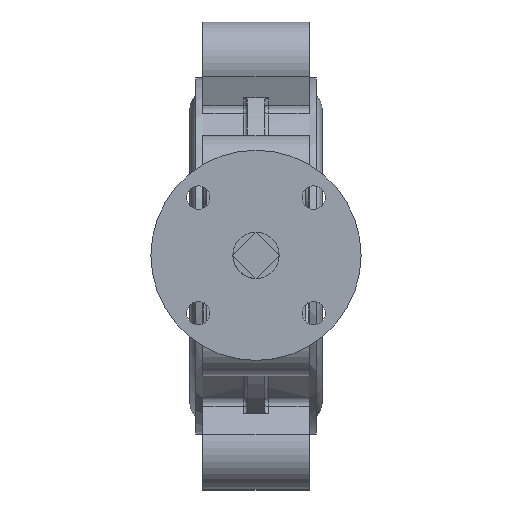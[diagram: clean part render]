
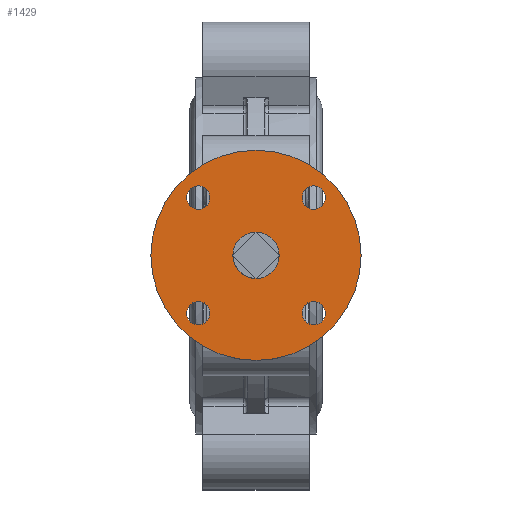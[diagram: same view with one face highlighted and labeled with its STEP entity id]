
A CAD part, top view. The second image highlights one B-rep face of the part: STEP entity #1429.
In plain terms, the highlighted planar face has unit normal (0, 0, 1).
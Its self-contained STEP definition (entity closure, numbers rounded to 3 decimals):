
#1429=ADVANCED_FACE('',(#4691,#4693,#4695,#4697,#4699,#4701),#4703,.T.);
#4691=FACE_BOUND('',#4692,.T.);
#4692=EDGE_LOOP('',(#8622));
#4693=FACE_BOUND('',#4694,.T.);
#4694=EDGE_LOOP('',(#8623));
#4695=FACE_BOUND('',#4696,.T.);
#4696=EDGE_LOOP('',(#8624));
#4697=FACE_BOUND('',#4698,.T.);
#4698=EDGE_LOOP('',(#8625));
#4699=FACE_BOUND('',#4700,.T.);
#4700=EDGE_LOOP('',(#8626));
#4701=FACE_BOUND('',#4702,.T.);
#4702=EDGE_LOOP('',(#8627));
#4703=PLANE('',#4704);
#4704=AXIS2_PLACEMENT_3D('',#4705,#4706,#4707);
#4705=CARTESIAN_POINT('',(0.,0.,170.));
#4706=DIRECTION('',(0.,0.,1.));
#4707=DIRECTION('',(1.,0.,0.));
#8622=ORIENTED_EDGE('',*,*,#10880,.T.);
#8623=ORIENTED_EDGE('',*,*,#11225,.T.);
#8624=ORIENTED_EDGE('',*,*,#10887,.T.);
#8625=ORIENTED_EDGE('',*,*,#10886,.T.);
#8626=ORIENTED_EDGE('',*,*,#10885,.T.);
#8627=ORIENTED_EDGE('',*,*,#10884,.T.);
#10880=EDGE_CURVE('',#12676,#12676,#12677,.T.);
#10884=EDGE_CURVE('',#12681,#12681,#12682,.F.);
#10885=EDGE_CURVE('',#12683,#12683,#12684,.F.);
#10886=EDGE_CURVE('',#12685,#12685,#12686,.F.);
#10887=EDGE_CURVE('',#12687,#12687,#12688,.F.);
#11225=EDGE_CURVE('',#13278,#13278,#13279,.F.);
#12676=VERTEX_POINT('',#16350);
#12677=CIRCLE('',#16351,45.);
#12681=VERTEX_POINT('',#16366);
#12682=CIRCLE('',#16367,5.);
#12683=VERTEX_POINT('',#16371);
#12684=CIRCLE('',#16372,5.);
#12685=VERTEX_POINT('',#16376);
#12686=CIRCLE('',#16377,5.);
#12687=VERTEX_POINT('',#16381);
#12688=CIRCLE('',#16382,5.);
#13278=VERTEX_POINT('',#17993);
#13279=CIRCLE('',#17994,9.899);
#16350=CARTESIAN_POINT('',(-45.,0.,170.));
#16351=AXIS2_PLACEMENT_3D('',#16352,#16353,#16354);
#16352=CARTESIAN_POINT('',(0.,0.,170.));
#16353=DIRECTION('',(0.,0.,1.));
#16354=DIRECTION('',(-1.,0.,0.));
#16366=CARTESIAN_POINT('',(-24.749,29.749,170.));
#16367=AXIS2_PLACEMENT_3D('',#16368,#16369,#16370);
#16368=CARTESIAN_POINT('',(-24.749,24.749,170.));
#16369=DIRECTION('',(0.,0.,1.));
#16370=DIRECTION('',(0.,1.,0.));
#16371=CARTESIAN_POINT('',(29.749,24.749,170.));
#16372=AXIS2_PLACEMENT_3D('',#16373,#16374,#16375);
#16373=CARTESIAN_POINT('',(24.749,24.749,170.));
#16374=DIRECTION('',(0.,0.,1.));
#16375=DIRECTION('',(1.,0.,0.));
#16376=CARTESIAN_POINT('',(24.749,-29.749,170.));
#16377=AXIS2_PLACEMENT_3D('',#16378,#16379,#16380);
#16378=CARTESIAN_POINT('',(24.749,-24.749,170.));
#16379=DIRECTION('',(0.,0.,1.));
#16380=DIRECTION('',(0.,-1.,0.));
#16381=CARTESIAN_POINT('',(-29.749,-24.749,170.));
#16382=AXIS2_PLACEMENT_3D('',#16383,#16384,#16385);
#16383=CARTESIAN_POINT('',(-24.749,-24.749,170.));
#16384=DIRECTION('',(0.,0.,1.));
#16385=DIRECTION('',(-1.,0.,0.));
#17993=CARTESIAN_POINT('',(0.,-9.899,170.));
#17994=AXIS2_PLACEMENT_3D('',#17995,#17996,#17997);
#17995=CARTESIAN_POINT('',(0.,0.,170.));
#17996=DIRECTION('',(0.,0.,1.));
#17997=DIRECTION('',(0.,-1.,0.));
